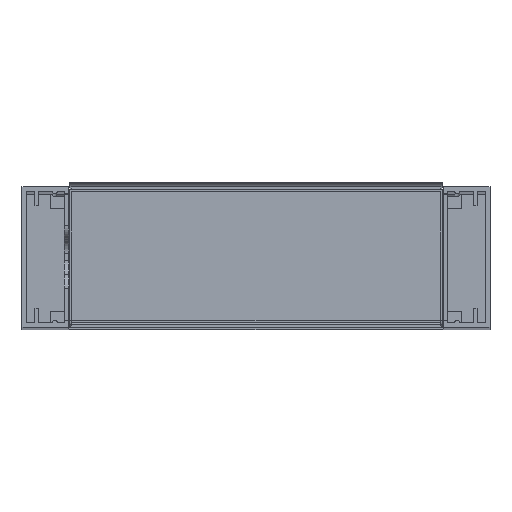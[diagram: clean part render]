
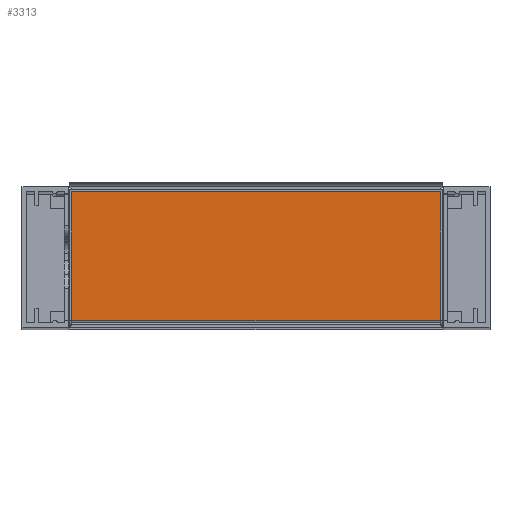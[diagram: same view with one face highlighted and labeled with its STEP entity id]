
A CAD part, top view. The second image highlights one B-rep face of the part: STEP entity #3313.
In plain terms, the highlighted planar face has unit normal (0, 0, 1).
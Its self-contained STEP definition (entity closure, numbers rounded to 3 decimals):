
#3088=DIRECTION('',(1.,0.,0.));
#3089=VECTOR('',#3088,158.);
#3090=CARTESIAN_POINT('',(-79.,27.8,669.2));
#3091=LINE('',#3090,#3089);
#3092=DIRECTION('',(0.,-1.,0.));
#3093=VECTOR('',#3092,55.6);
#3094=CARTESIAN_POINT('',(79.,27.8,669.2));
#3095=LINE('',#3094,#3093);
#3096=DIRECTION('',(-1.,0.,0.));
#3097=VECTOR('',#3096,158.);
#3098=CARTESIAN_POINT('',(79.,-27.8,669.2));
#3099=LINE('',#3098,#3097);
#3100=DIRECTION('',(0.,1.,0.));
#3101=VECTOR('',#3100,55.6);
#3102=CARTESIAN_POINT('',(-79.,-27.8,669.2));
#3103=LINE('',#3102,#3101);
#3266=CARTESIAN_POINT('',(-79.,27.8,669.2));
#3267=CARTESIAN_POINT('',(79.,27.8,669.2));
#3268=VERTEX_POINT('',#3266);
#3269=VERTEX_POINT('',#3267);
#3274=CARTESIAN_POINT('',(79.,-27.8,669.2));
#3275=CARTESIAN_POINT('',(-79.,-27.8,669.2));
#3276=VERTEX_POINT('',#3274);
#3277=VERTEX_POINT('',#3275);
#3298=CARTESIAN_POINT('',(0.,0.,669.2));
#3299=DIRECTION('',(0.,0.,1.));
#3300=DIRECTION('',(1.,0.,0.));
#3301=AXIS2_PLACEMENT_3D('',#3298,#3299,#3300);
#3302=PLANE('',#3301);
#3304=ORIENTED_EDGE('',*,*,#3303,.T.);
#3306=ORIENTED_EDGE('',*,*,#3305,.T.);
#3308=ORIENTED_EDGE('',*,*,#3307,.T.);
#3310=ORIENTED_EDGE('',*,*,#3309,.T.);
#3311=EDGE_LOOP('',(#3304,#3306,#3308,#3310));
#3312=FACE_OUTER_BOUND('',#3311,.F.);
#3313=ADVANCED_FACE('',(#3312),#3302,.T.);
#3303=EDGE_CURVE('',#3268,#3269,#3091,.T.);
#3305=EDGE_CURVE('',#3269,#3276,#3095,.T.);
#3307=EDGE_CURVE('',#3276,#3277,#3099,.T.);
#3309=EDGE_CURVE('',#3277,#3268,#3103,.T.);
